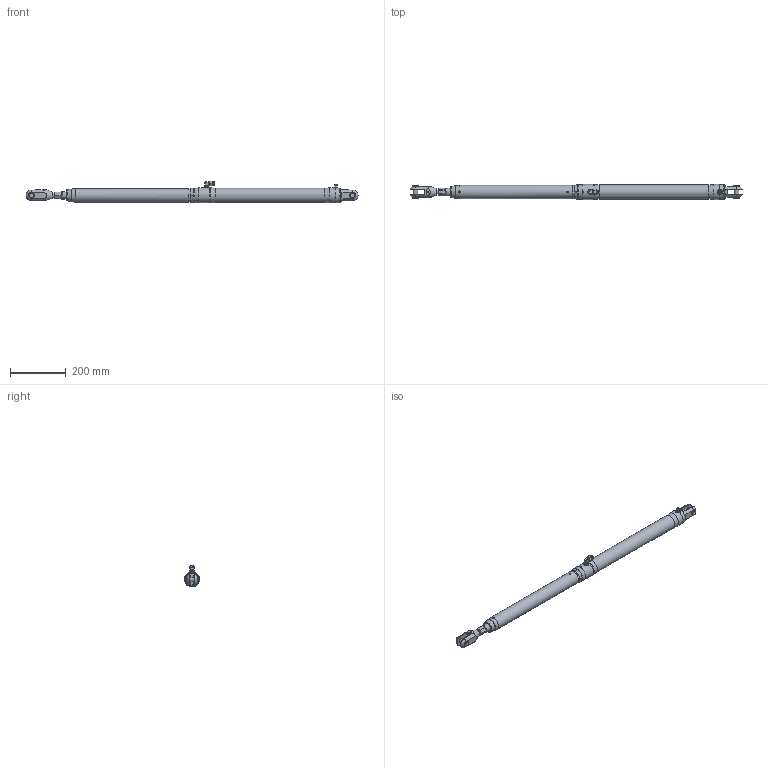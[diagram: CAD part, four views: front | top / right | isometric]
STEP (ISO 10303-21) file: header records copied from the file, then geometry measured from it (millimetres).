
FILE_DESCRIPTION(/* description */ (''),/* implementation_level */ '2;1');
FILE_NAME(/* name */ 'Q:\AA BRAND HYDRAULICS\HYDRAULICS FAMILY DIRECTORY\HYDRAULICS\CYLINDERS\MECHANICAL LOCK RAMS\ALUMINIUM - STAINLESS SINGLE ACTING (-0012 To -0150)\MSA-0012-S0375-NP-71\MSA-0012-S0375-NP-71 (Closed).stp',/* time_stamp */ '2018-04-25T14:07:46+01:00',/* author */ ('Lorena'),/* organization */ (''),/* preprocessor_version */ 'ST-DEVELOPER v17',/* originating_system */ 'Autodesk Inventor 2018',/* authorisation */ '');
FILE_SCHEMA (('AUTOMOTIVE_DESIGN { 1 0 10303 214 3 1 1 }'));
Length unit declared in the file: millimetre
Products named in the file (1): MSA-0012-S0375-NP-71 (Closed)
Bounding box: 1187.15 x 53.8 x 78.12 mm (x, y, z)
Volume: 2071873.2 mm3; surface area: 197469.7 mm2
Topology: 2 solids, 4 shells, 517 faces, 1357 edges, 884 vertices
Faces by surface type: plane 288, cone 132, cylinder 82, torus 6, bspline 5, sphere 4
Full cylindrical faces by diameter (mm): 3 x4, 3.5 x1, 4 x1, 4.2 x2, 4.4 x1, 5 x4, 7 x1, 7.728 x1, 8.728 x1, 8.8 x3, 9 x1, 9.728 x2, 10 x2, 11.11 x1, 11.8 x2, 12 x3, 13 x1, 15.1 x3, 15.88 x2, 17.5 x1, 18 x1, 19.85 x2, 27 x2, 28 x2, 31 x1, 48 x1, 50.8 x1, 53.8 x4
Entity records: 17668 total; most frequent: CARTESIAN_POINT 4575, ORIENTED_EDGE 2698, DIRECTION 2600, EDGE_CURVE 1349, AXIS2_PLACEMENT_3D 1002, VERTEX_POINT 885, LINE 596, VECTOR 596
